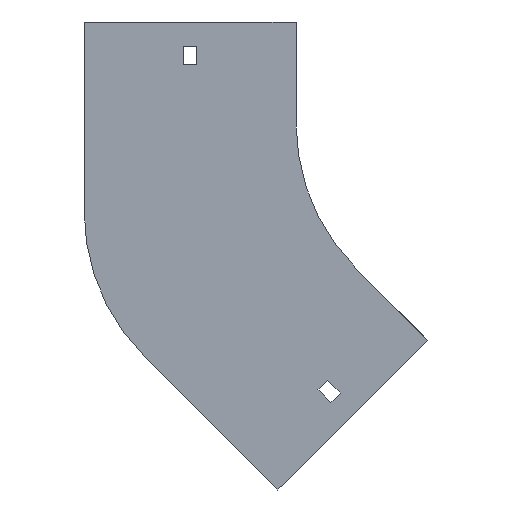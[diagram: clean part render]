
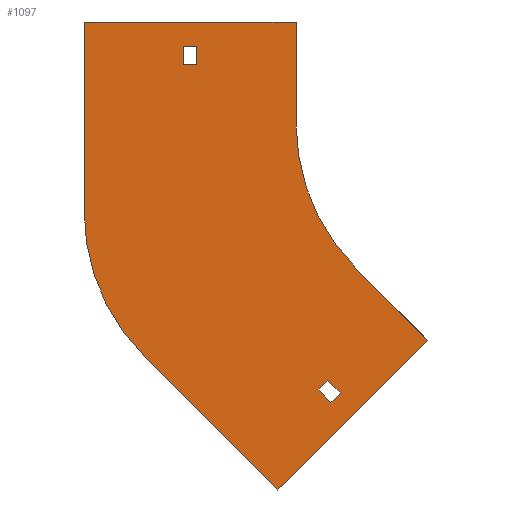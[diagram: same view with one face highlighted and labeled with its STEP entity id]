
A CAD part, front view. The second image highlights one B-rep face of the part: STEP entity #1097.
In plain terms, the highlighted planar face has unit normal (0, -1, 0).
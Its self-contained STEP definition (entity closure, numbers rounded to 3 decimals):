
#1 = CARTESIAN_POINT ( 'NONE',  ( -148.75, 0., 38. ) ) ;
#27 = LINE ( 'NONE', #601, #1430 ) ;
#28 = LINE ( 'NONE', #1064, #121 ) ;
#39 = VERTEX_POINT ( 'NONE', #1266 ) ;
#44 = LINE ( 'NONE', #645, #301 ) ;
#55 = EDGE_LOOP ( 'NONE', ( #1267, #781, #793, #1845 ) ) ;
#90 = ORIENTED_EDGE ( 'NONE', *, *, #627, .F. ) ;
#121 = VECTOR ( 'NONE', #922, 1000. ) ;
#122 = CARTESIAN_POINT ( 'NONE',  ( -155.25, 0., 29. ) ) ;
#143 = DIRECTION ( 'NONE',  ( 1., 0., 0. ) ) ;
#148 = LINE ( 'NONE', #748, #774 ) ;
#173 = VECTOR ( 'NONE', #1265, 1000. ) ;
#202 = EDGE_LOOP ( 'NONE', ( #759, #509, #841, #1717, #764, #969, #1559, #1728 ) ) ;
#233 = DIRECTION ( 'NONE',  ( -0.707, 0., -0.707 ) ) ;
#264 = VECTOR ( 'NONE', #625, 1000. ) ;
#301 = VECTOR ( 'NONE', #490, 1000. ) ;
#360 = DIRECTION ( 'NONE',  ( -0.707, 0., 0.707 ) ) ;
#408 = CARTESIAN_POINT ( 'NONE',  ( 0., 0., 0. ) ) ;
#423 = LINE ( 'NONE', #1023, #657 ) ;
#440 = DIRECTION ( 'NONE',  ( 0.707, 0., 0.707 ) ) ;
#443 = LINE ( 'NONE', #1640, #1934 ) ;
#489 = VECTOR ( 'NONE', #1602, 1000. ) ;
#490 = DIRECTION ( 'NONE',  ( 0., 0., 1. ) ) ;
#495 = VERTEX_POINT ( 'NONE', #1527 ) ;
#509 = ORIENTED_EDGE ( 'NONE', *, *, #545, .F. ) ;
#512 = DIRECTION ( 'NONE',  ( 0., 0., 1. ) ) ;
#527 = CARTESIAN_POINT ( 'NONE',  ( -155.25, 0., 38. ) ) ;
#531 = CARTESIAN_POINT ( 'NONE',  ( -104., 0., -43.078 ) ) ;
#545 = EDGE_CURVE ( 'NONE', #1374, #1062, #44, .T. ) ;
#552 = CIRCLE ( 'NONE', #1333, 100. ) ;
#556 = CARTESIAN_POINT ( 'NONE',  ( -148.75, 0., 29. ) ) ;
#582 = VERTEX_POINT ( 'NONE', #1467 ) ;
#601 = CARTESIAN_POINT ( 'NONE',  ( -155.25, 0., 38. ) ) ;
#610 = VERTEX_POINT ( 'NONE', #122 ) ;
#625 = DIRECTION ( 'NONE',  ( -0.707, 0., 0.707 ) ) ;
#627 = EDGE_CURVE ( 'NONE', #839, #39, #148, .T. ) ;
#639 = VERTEX_POINT ( 'NONE', #1 ) ;
#645 = CARTESIAN_POINT ( 'NONE',  ( -204., 0., -43.078 ) ) ;
#646 = CARTESIAN_POINT ( 'NONE',  ( -89.272, 0., -130.284 ) ) ;
#657 = VECTOR ( 'NONE', #1476, 1000. ) ;
#658 = LINE ( 'NONE', #1275, #836 ) ;
#708 = VECTOR ( 'NONE', #512, 1000. ) ;
#740 = VERTEX_POINT ( 'NONE', #1309 ) ;
#743 = VERTEX_POINT ( 'NONE', #1918 ) ;
#748 = CARTESIAN_POINT ( 'NONE',  ( -82.908, 0., -136.648 ) ) ;
#759 = ORIENTED_EDGE ( 'NONE', *, *, #809, .F. ) ;
#761 = ORIENTED_EDGE ( 'NONE', *, *, #1742, .F. ) ;
#764 = ORIENTED_EDGE ( 'NONE', *, *, #1612, .F. ) ;
#769 = LINE ( 'NONE', #1365, #264 ) ;
#773 = CARTESIAN_POINT ( 'NONE',  ( -70.711, 0., -70.711 ) ) ;
#774 = VECTOR ( 'NONE', #440, 1000. ) ;
#781 = ORIENTED_EDGE ( 'NONE', *, *, #1565, .T. ) ;
#793 = ORIENTED_EDGE ( 'NONE', *, *, #1941, .T. ) ;
#809 = EDGE_CURVE ( 'NONE', #1062, #743, #423, .T. ) ;
#811 = CIRCLE ( 'NONE', #1187, 100. ) ;
#836 = VECTOR ( 'NONE', #233, 1000. ) ;
#839 = VERTEX_POINT ( 'NONE', #1123 ) ;
#841 = ORIENTED_EDGE ( 'NONE', *, *, #1354, .F. ) ;
#868 = PLANE ( 'NONE',  #1724 ) ;
#890 = EDGE_CURVE ( 'NONE', #1024, #1199, #811, .T. ) ;
#904 = EDGE_LOOP ( 'NONE', ( #90, #1532, #761, #1143 ) ) ;
#922 = DIRECTION ( 'NONE',  ( 0., 0., -1. ) ) ;
#941 = EDGE_CURVE ( 'NONE', #743, #1024, #28, .T. ) ;
#952 = EDGE_CURVE ( 'NONE', #1730, #839, #1095, .T. ) ;
#956 = LINE ( 'NONE', #1293, #708 ) ;
#969 = ORIENTED_EDGE ( 'NONE', *, *, #1708, .F. ) ;
#988 = CARTESIAN_POINT ( 'NONE',  ( -204., 0., 50. ) ) ;
#1012 = VERTEX_POINT ( 'NONE', #527 ) ;
#1013 = CARTESIAN_POINT ( 'NONE',  ( -155.25, 0., 29. ) ) ;
#1023 = CARTESIAN_POINT ( 'NONE',  ( -204., 0., 50. ) ) ;
#1024 = VERTEX_POINT ( 'NONE', #1895 ) ;
#1032 = EDGE_CURVE ( 'NONE', #610, #1012, #956, .T. ) ;
#1034 = CARTESIAN_POINT ( 'NONE',  ( -204., 0., -43.078 ) ) ;
#1062 = VERTEX_POINT ( 'NONE', #988 ) ;
#1064 = CARTESIAN_POINT ( 'NONE',  ( -100., 0., 50. ) ) ;
#1095 = LINE ( 'NONE', #646, #1472 ) ;
#1097 = ADVANCED_FACE ( 'NONE', ( #1625, #1479, #1637 ), #868, .T. ) ;
#1123 = CARTESIAN_POINT ( 'NONE',  ( -82.908, 0., -136.648 ) ) ;
#1134 = LINE ( 'NONE', #1261, #1556 ) ;
#1143 = ORIENTED_EDGE ( 'NONE', *, *, #1594, .F. ) ;
#1155 = DIRECTION ( 'NONE',  ( 0., 0., -1. ) ) ;
#1174 = LINE ( 'NONE', #1013, #489 ) ;
#1187 = AXIS2_PLACEMENT_3D ( 'NONE', #1193, #1803, #1225 ) ;
#1193 = CARTESIAN_POINT ( 'NONE',  ( 0., 0., 0. ) ) ;
#1199 = VERTEX_POINT ( 'NONE', #773 ) ;
#1225 = DIRECTION ( 'NONE',  ( 0., 0., -1. ) ) ;
#1261 = CARTESIAN_POINT ( 'NONE',  ( -108.894, 0., -179.605 ) ) ;
#1265 = DIRECTION ( 'NONE',  ( 0.707, 0., -0.707 ) ) ;
#1266 = CARTESIAN_POINT ( 'NONE',  ( -78.312, 0., -132.052 ) ) ;
#1267 = ORIENTED_EDGE ( 'NONE', *, *, #1032, .T. ) ;
#1270 = EDGE_CURVE ( 'NONE', #582, #740, #1134, .T. ) ;
#1275 = CARTESIAN_POINT ( 'NONE',  ( -89.272, 0., -130.284 ) ) ;
#1293 = CARTESIAN_POINT ( 'NONE',  ( -155.25, 0., 29. ) ) ;
#1309 = CARTESIAN_POINT ( 'NONE',  ( -174.711, 0., -113.789 ) ) ;
#1322 = CARTESIAN_POINT ( 'NONE',  ( -148.75, 0., 29. ) ) ;
#1333 = AXIS2_PLACEMENT_3D ( 'NONE', #531, #1391, #1750 ) ;
#1354 = EDGE_CURVE ( 'NONE', #740, #1374, #552, .T. ) ;
#1355 = DIRECTION ( 'NONE',  ( 0.707, 0., -0.707 ) ) ;
#1365 = CARTESIAN_POINT ( 'NONE',  ( -84.676, 0., -125.688 ) ) ;
#1374 = VERTEX_POINT ( 'NONE', #1034 ) ;
#1376 = DIRECTION ( 'NONE',  ( -0.707, 0., -0.707 ) ) ;
#1391 = DIRECTION ( 'NONE',  ( 0., 1., 0. ) ) ;
#1398 = EDGE_CURVE ( 'NONE', #1496, #610, #1174, .T. ) ;
#1411 = LINE ( 'NONE', #1433, #173 ) ;
#1430 = VECTOR ( 'NONE', #143, 1000. ) ;
#1433 = CARTESIAN_POINT ( 'NONE',  ( -70.711, 0., -70.711 ) ) ;
#1467 = CARTESIAN_POINT ( 'NONE',  ( -108.894, 0., -179.605 ) ) ;
#1468 = DIRECTION ( 'NONE',  ( 0., -1., 0. ) ) ;
#1472 = VECTOR ( 'NONE', #1355, 1000. ) ;
#1476 = DIRECTION ( 'NONE',  ( 1., 0., 0. ) ) ;
#1479 = FACE_OUTER_BOUND ( 'NONE', #202, .T. ) ;
#1496 = VERTEX_POINT ( 'NONE', #1322 ) ;
#1498 = DIRECTION ( 'NONE',  ( 0., 0., -1. ) ) ;
#1527 = CARTESIAN_POINT ( 'NONE',  ( -84.676, 0., -125.688 ) ) ;
#1532 = ORIENTED_EDGE ( 'NONE', *, *, #952, .F. ) ;
#1556 = VECTOR ( 'NONE', #360, 1000. ) ;
#1559 = ORIENTED_EDGE ( 'NONE', *, *, #890, .F. ) ;
#1565 = EDGE_CURVE ( 'NONE', #1012, #639, #27, .T. ) ;
#1594 = EDGE_CURVE ( 'NONE', #39, #495, #769, .T. ) ;
#1602 = DIRECTION ( 'NONE',  ( -1., 0., 0. ) ) ;
#1612 = EDGE_CURVE ( 'NONE', #1690, #582, #443, .T. ) ;
#1625 = FACE_BOUND ( 'NONE', #55, .T. ) ;
#1631 = VECTOR ( 'NONE', #1155, 1000. ) ;
#1637 = FACE_BOUND ( 'NONE', #904, .T. ) ;
#1640 = CARTESIAN_POINT ( 'NONE',  ( -35.355, 0., -106.066 ) ) ;
#1690 = VERTEX_POINT ( 'NONE', #1726 ) ;
#1708 = EDGE_CURVE ( 'NONE', #1199, #1690, #1411, .T. ) ;
#1717 = ORIENTED_EDGE ( 'NONE', *, *, #1270, .F. ) ;
#1724 = AXIS2_PLACEMENT_3D ( 'NONE', #408, #1468, #1498 ) ;
#1726 = CARTESIAN_POINT ( 'NONE',  ( -35.355, 0., -106.066 ) ) ;
#1728 = ORIENTED_EDGE ( 'NONE', *, *, #941, .F. ) ;
#1730 = VERTEX_POINT ( 'NONE', #1853 ) ;
#1742 = EDGE_CURVE ( 'NONE', #495, #1730, #658, .T. ) ;
#1750 = DIRECTION ( 'NONE',  ( 0., 0., 1. ) ) ;
#1803 = DIRECTION ( 'NONE',  ( 0., -1., 0. ) ) ;
#1845 = ORIENTED_EDGE ( 'NONE', *, *, #1398, .T. ) ;
#1853 = CARTESIAN_POINT ( 'NONE',  ( -89.272, 0., -130.284 ) ) ;
#1895 = CARTESIAN_POINT ( 'NONE',  ( -100., 0., 0. ) ) ;
#1912 = LINE ( 'NONE', #556, #1631 ) ;
#1918 = CARTESIAN_POINT ( 'NONE',  ( -100., 0., 50. ) ) ;
#1934 = VECTOR ( 'NONE', #1376, 1000. ) ;
#1941 = EDGE_CURVE ( 'NONE', #639, #1496, #1912, .T. ) ;
